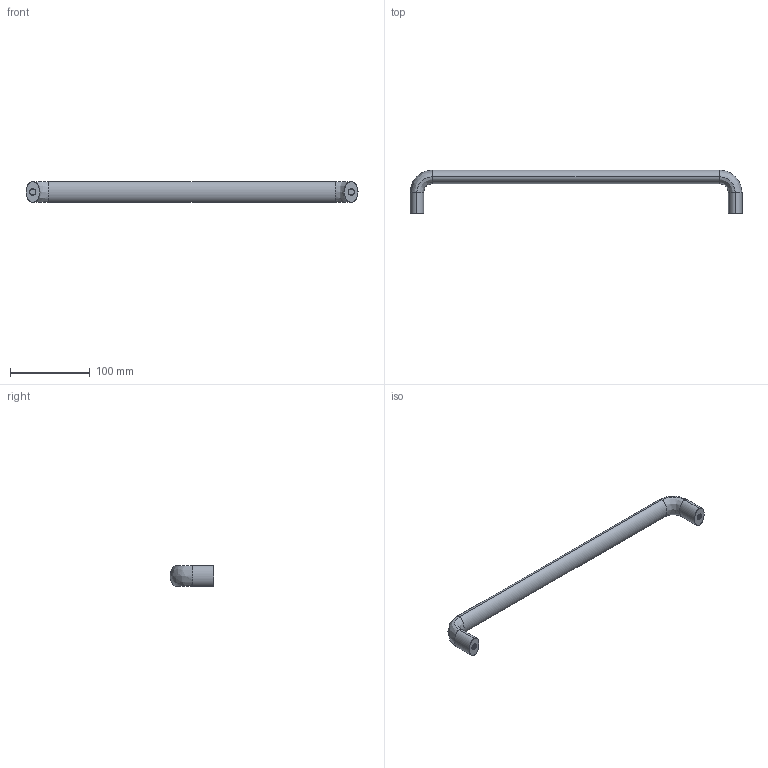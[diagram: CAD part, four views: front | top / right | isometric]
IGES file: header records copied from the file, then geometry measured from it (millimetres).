
Start section: SolidWorks IGES file using analytic representation for surfaces
Global section: file name: C:\Documents and Settings\Deathkiller\桌面\3D IGES\U型把手\MS-740\26\p=400.IGS; native system: SolidWorks 2006 by SolidWorks Corporation; preprocessor: SolidWorks 2006 by SolidWorks Corporation; author: Deathkiller; date: 080624.172755; units: millimetre
Bounding box: 417 x 55 x 26 mm (x, y, z)
Surface area: 33904.3 mm2 (no closed solid volume)
Topology: 0 solids, 0 shells, 70 faces, 1626 edges, 1626 vertices
Faces by surface type: revolution 48, bspline 22
